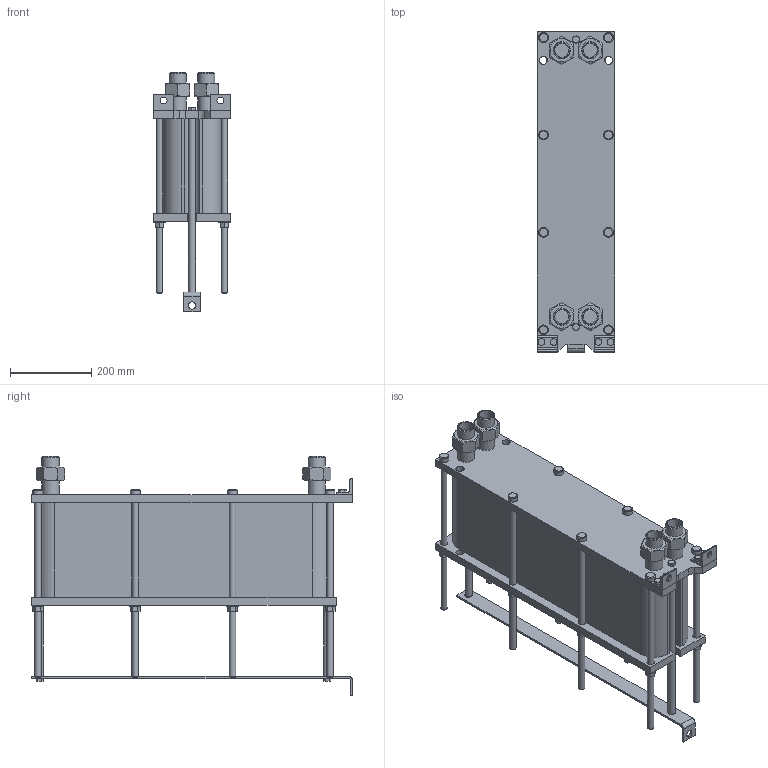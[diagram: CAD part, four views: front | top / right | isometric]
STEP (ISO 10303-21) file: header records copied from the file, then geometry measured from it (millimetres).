
FILE_DESCRIPTION(/* description */ (''),/* implementation_level */ '2;1');
FILE_NAME(/* name */ 'C:\Users\zhuro\Desktop\ENCO\TO\ЭН-008\ЭН-0,5-008-75-1.stp',/* time_stamp */ '2022-06-06T10:52:03+03:00',/* author */ ('zhuro'),/* organization */ (''),/* preprocessor_version */ 'ST-DEVELOPER v18.1',/* originating_system */ 'Autodesk Inventor 2022',/* authorisation */ '');
FILE_SCHEMA (('AUTOMOTIVE_DESIGN { 1 0 10303 214 3 1 1 }'));
Length unit declared in the file: millimetre
Products named in the file (1): ЭН-0,5-008-75-1
Bounding box: 190 x 790 x 589 mm (x, y, z)
Volume: 30565729.2 mm3; surface area: 1810054 mm2
Topology: 40 solids, 40 shells, 428 faces, 924 edges, 606 vertices
Faces by surface type: plane 273, cylinder 109, cone 40, torus 6
Full cylindrical faces by diameter (mm): 12 x6, 14 x2, 16 x20, 17 x8, 18 x19, 20 x5, 24 x8, 28 x8, 34.3 x8, 42.3 x8
Entity records: 15843 total; most frequent: CARTESIAN_POINT 5991, DIRECTION 1984, ORIENTED_EDGE 1848, EDGE_CURVE 924, AXIS2_PLACEMENT_3D 715, VERTEX_POINT 606, LINE 554, VECTOR 554
